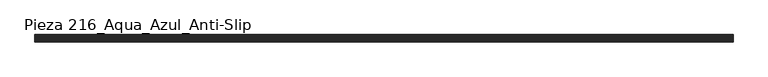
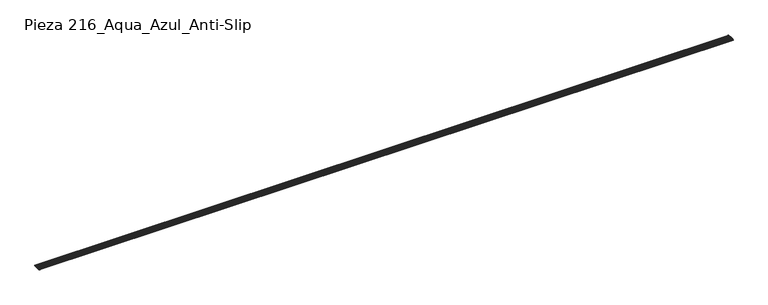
"""IFC4 building model written with IfcOpenShell, lengths in millimetres: slab geometry, ROSA GRES_216 : Pieza 216_Aqua_Azul_Anti-Slip."""

import ifcopenshell
import ifcopenshell.guid

model = None  # the IFC model being written
_history = None  # IfcOwnerHistory: only IFC2X3 demands one
_inside = {}  # id of a spatial element -> (the spatial element, [elements in it])
_under = {}  # id of a project, library or spatial element -> (it, [spatial elements below it])
_declared = {}  # id of a project -> (the project, [libraries it declares])
_typed = {}  # id of a type object -> (the type object, [elements of that type])
_made_of = {}  # id of a material, layer set ... -> (it, [elements and type objects made of it])


def new_model(schema):
    """Start an empty IFC model of exactly this schema.

    Asked for "IFC4X3", IfcOpenShell would pick the latest addendum, in which some entities
    have other attributes; the version numbers below select the first issue.
    IFC2X3 requires an IfcOwnerHistory on every rooted entity: one is made here for all.
    """
    global model, _history
    if schema == "IFC4X3":
        model = ifcopenshell.file(schema_version=(4, 3, 0, 0))
    else:
        model = ifcopenshell.file(schema=schema)
    _inside.clear()
    _under.clear()
    _declared.clear()
    _typed.clear()
    _made_of.clear()
    _history = None
    if model.schema == "IFC2X3":
        org = make("IfcOrganization", Name="unknown")
        user = make(
            "IfcPersonAndOrganization",
            ThePerson=make("IfcPerson", FamilyName="unknown"),
            TheOrganization=org,
        )
        app = make(
            "IfcApplication",
            ApplicationDeveloper=org,
            Version="unknown",
            ApplicationFullName="unknown",
            ApplicationIdentifier="unknown",
        )
        _history = make(
            "IfcOwnerHistory",
            OwningUser=user,
            OwningApplication=app,
            ChangeAction="ADDED",
            CreationDate=0,
        )
    return model


def make(cls, **values):
    """One entity of the class cls with the attributes given. An attribute that is None is left unset."""
    return model.create_entity(
        cls, **{name: value for name, value in values.items() if value is not None}
    )


def rooted(cls, **values):
    """An entity with a GlobalId (a new one), such as an element, a storey or a relation."""
    return make(cls, GlobalId=ifcopenshell.guid.new(), OwnerHistory=_history, **values)


def si_unit(unit_type, name, prefix=None):
    """IfcSIUnit, for example si_unit("LENGTHUNIT", "METRE", prefix="MILLI")."""
    return make("IfcSIUnit", UnitType=unit_type, Prefix=prefix, Name=name)


def assignment(units):
    """IfcUnitAssignment: the units of a project."""
    return None if units is None else make("IfcUnitAssignment", Units=units)


def point(xyz):
    """IfcCartesianPoint."""
    return None if xyz is None else make("IfcCartesianPoint", Coordinates=xyz)


def direction(xyz):
    """IfcDirection."""
    return None if xyz is None else make("IfcDirection", DirectionRatios=xyz)


def frame(location, z_axis=None, x_axis=None):
    """IfcAxis2Placement3D, a coordinate frame: its origin and axes. An axis left out is left unset."""
    return make(
        "IfcAxis2Placement3D",
        Location=point(location),
        Axis=direction(z_axis),
        RefDirection=direction(x_axis),
    )


def frame_2d(location, x_axis=None):
    """IfcAxis2Placement2D, a coordinate frame in the plane: its origin and x axis."""
    return make(
        "IfcAxis2Placement2D", Location=point(location), RefDirection=direction(x_axis)
    )


def origin():
    """The frame at (0, 0, 0) with its axes left unset."""
    return frame((0.0, 0.0, 0.0))


def place(relative_to, where):
    """IfcLocalPlacement: puts the frame where relative to a parent placement (None: the world)."""
    return make(
        "IfcLocalPlacement", PlacementRelTo=relative_to, RelativePlacement=where
    )


def context(
    kind, dimensions, precision=None, world=None, true_north=None, identifier=None
):
    """IfcGeometricRepresentationContext, for example the 3D "Model" context."""
    return make(
        "IfcGeometricRepresentationContext",
        ContextIdentifier=identifier,
        ContextType=kind,
        CoordinateSpaceDimension=dimensions,
        Precision=precision,
        WorldCoordinateSystem=world,
        TrueNorth=true_north,
    )


def project(units=None, contexts=None):
    """IfcProject with its units and contexts."""
    return rooted(
        "IfcProject",
        Name="project",
        RepresentationContexts=contexts,
        UnitsInContext=assignment(units),
    )


def spatial(cls, under=None, at=None, **own):
    """A site, building, storey or space (cls), placed at a placement, below another one or the project."""
    s = rooted(cls, ObjectPlacement=at, **own)
    if under is not None:
        _under.setdefault(under.id(), (under, []))[1].append(s)
    return s


def polyline(points):
    """IfcPolyline through the points."""
    return make("IfcPolyline", Points=[point(p) for p in points])


def circle_curve(where, radius):
    """IfcCircle in the frame where."""
    return make("IfcCircle", Position=where, Radius=radius)


def trimmed(basis, trim1, trim2, sense, master):
    """IfcTrimmedCurve: the piece of a basis curve between two trims."""
    return make(
        "IfcTrimmedCurve",
        BasisCurve=basis,
        Trim1=trim1,
        Trim2=trim2,
        SenseAgreement=sense,
        MasterRepresentation=master,
    )


def segment(curve, same_sense, transition):
    """IfcCompositeCurveSegment."""
    return make(
        "IfcCompositeCurveSegment",
        Transition=transition,
        SameSense=same_sense,
        ParentCurve=curve,
    )


def composite_curve(segments, self_intersect=None):
    """IfcCompositeCurve: segments joined end to end."""
    return make("IfcCompositeCurve", Segments=segments, SelfIntersect=self_intersect)


def outline(outer, holes=None, kind="AREA"):
    """IfcArbitraryClosedProfileDef: a profile drawn as a closed curve; with holes, ...WithVoids."""
    if holes is None:
        return make("IfcArbitraryClosedProfileDef", ProfileType=kind, OuterCurve=outer)
    return make(
        "IfcArbitraryProfileDefWithVoids",
        ProfileType=kind,
        OuterCurve=outer,
        InnerCurves=holes,
    )


def extrude(swept, where, along, depth):
    """IfcExtrudedAreaSolid: the profile swept, set in the frame where, extruded along a direction by depth."""
    return make(
        "IfcExtrudedAreaSolid",
        SweptArea=swept,
        Position=where,
        ExtrudedDirection=direction(along),
        Depth=depth,
    )


def shape(context_of_items, identifier, shape_type, items):
    """IfcShapeRepresentation: the items that make up one representation, for example the "Body"."""
    return make(
        "IfcShapeRepresentation",
        ContextOfItems=context_of_items,
        RepresentationIdentifier=identifier,
        RepresentationType=shape_type,
        Items=items,
    )


def source(mapping_origin, context_of_items, identifier, shape_type, items):
    """IfcRepresentationMap: a shape defined once, which mapped items show again and again."""
    return make(
        "IfcRepresentationMap",
        MappingOrigin=mapping_origin,
        MappedRepresentation=shape(context_of_items, identifier, shape_type, items),
    )


def transform(
    local_origin,
    x_axis=None,
    y_axis=None,
    z_axis=None,
    scale=None,
    scale2=None,
    scale3=None,
    uniform=True,
):
    """IfcCartesianTransformationOperator3D, or its non-uniform kind. x_axis, y_axis, z_axis: its Axis1, 2, 3."""
    if uniform:
        return make(
            "IfcCartesianTransformationOperator3D",
            Axis1=direction(x_axis),
            Axis2=direction(y_axis),
            LocalOrigin=point(local_origin),
            Scale=scale,
            Axis3=direction(z_axis),
        )
    return make(
        "IfcCartesianTransformationOperator3DnonUniform",
        Axis1=direction(x_axis),
        Axis2=direction(y_axis),
        LocalOrigin=point(local_origin),
        Scale=scale,
        Axis3=direction(z_axis),
        Scale2=scale2,
        Scale3=scale3,
    )


def mapped(mapping_source, mapping_target):
    """IfcMappedItem: shows the shape of a source again, moved by a transform."""
    return make(
        "IfcMappedItem", MappingSource=mapping_source, MappingTarget=mapping_target
    )


def made_of(thing, what):
    """Note that an element or type object is made of a material, layer set ...; save() writes the relation."""
    if what is not None:
        _made_of.setdefault(what.id(), (what, []))[1].append(thing)
    return thing


def element(
    cls,
    number,
    at=None,
    inside=None,
    cuts=None,
    type_object=None,
    material=None,
    context=None,
    identifier="Body",
    shape_type=None,
    held_by="IfcProductDefinitionShape",
    body=None,
    shapes=None,
    **own,
):
    """One element of the class cls, such as IfcWall. Its Tag is "e" and its number.

    at: its placement. inside: the storey or other place that contains it. cuts: it is an
    opening in that element (IfcRelVoidsElement). A single representation is given by context,
    identifier, shape_type and body (its items); several are given by shapes. held_by: the class
    of the entity that holds the representations. save() writes the other relations.
    """
    e = rooted(cls, Tag="e%d" % number, ObjectPlacement=at, **own)
    if body is not None:
        shapes = [shape(context, identifier, shape_type, body)]
    if shapes is not None:
        e.Representation = make(held_by, Representations=shapes)
    if inside is not None:
        _inside.setdefault(inside.id(), (inside, []))[1].append(e)
    if cuts is not None:
        rooted(
            "IfcRelVoidsElement", RelatingBuildingElement=cuts, RelatedOpeningElement=e
        )
    if type_object is not None:
        _typed.setdefault(type_object.id(), (type_object, []))[1].append(e)
    return made_of(e, material)


def aggregate(whole, parts):
    """IfcRelAggregates: a whole, such as a stair, and the parts it consists of."""
    return rooted("IfcRelAggregates", RelatingObject=whole, RelatedObjects=parts)


def save(model, path):
    """Write the relations noted so far, then the file.

    IfcRelAggregates (storeys below a building ...), IfcRelContainedInSpatialStructure (elements
    in a storey), IfcRelDefinesByType, IfcRelAssociatesMaterial and IfcRelDeclares: one each for
    every whole, place, type object, material and project.
    """
    for whole, parts in _under.values():
        aggregate(whole, parts)
    for where, things in _inside.values():
        rooted(
            "IfcRelContainedInSpatialStructure",
            RelatedElements=things,
            RelatingStructure=where,
        )
    for kind, things in _typed.values():
        rooted("IfcRelDefinesByType", RelatedObjects=things, RelatingType=kind)
    for what, things in _made_of.values():
        rooted("IfcRelAssociatesMaterial", RelatedObjects=things, RelatingMaterial=what)
    for by, libraries in _declared.values():
        rooted("IfcRelDeclares", RelatingContext=by, RelatedDefinitions=libraries)
    model.write(path)


def pieza_216_aqua_azul_anti_slip_0b623ba6(model_context):
    return source(origin(), model_context, "Body", "SweptSolid", [
        extrude(outline(composite_curve([segment(polyline([(-50.2779274, 190.3313491), (-47.02226, 214.2649666), (-36.1886491, 213.5497765)]), True, "CONTINUOUS"), segment(trimmed(circle_curve(frame_2d((-32.9401407, 216.1124298)), 4.1376321), [point((-36.1886491, 213.5497765))], [point((-30.8950387, 212.5155483))], True, "CARTESIAN"), True, "CONTINUOUS"), segment(trimmed(circle_curve(frame_2d((-28.8499366, 208.9186667)), 4.1376321), [point((-30.8950387, 212.5155483))], [point((-26.349741, 212.2154865))], False, "CARTESIAN"), True, "CONTINUOUS"), segment(trimmed(circle_curve(frame_2d((-23.8495454, 215.5123064)), 4.1376321), [point((-26.349741, 212.2154865))], [point((-20.9679225, 212.5430894))], True, "CARTESIAN"), True, "CONTINUOUS"), segment(polyline([(-20.9679225, 212.5430894), (-12.4148911, 211.9892969)]), True, "CONTINUOUS"), segment(trimmed(circle_curve(frame_2d((-13.9356113, 198.4086002)), 13.6655739), [point((-12.4148911, 211.9892969))], [point((-0.270618, 198.2826277))], False, "CARTESIAN"), True, "CONTINUOUS"), segment(polyline([(-0.270618, 198.2826277), (-0.2589396, 192.8448483), (-5.1617818, 192.8343188), (-5.4229579, 190.3493946), (-14.2436688, 190.3458459)]), True, "CONTINUOUS"), segment(trimmed(circle_curve(frame_2d((-28.4466156, 179.1524611)), 18.0835716), [point((-14.2436688, 190.3458459))], [point((-42.6585641, 190.3344144))], True, "CARTESIAN"), True, "CONTINUOUS"), segment(polyline([(-42.6585641, 190.3344144), (-50.2779274, 190.3313491)]), True, "CONTINUOUS")], self_intersect=False)), frame((0.0, 0.0, 0.0), z_axis=(1.0, 0.0, 0.0), x_axis=(0.0, 1.0, 0.0)), (0.0, 0.0, 1.0), 24719.9734114),
        extrude(outline(composite_curve([segment(polyline([(-263.2751802, 190.245659), (-263.622227, 201.6579314), (-249.1610944, 202.0976939), (-249.2078603, 227.5843816), (-240.0374016, 226.9789859)]), True, "CONTINUOUS"), segment(trimmed(circle_curve(frame_2d((-236.7888932, 229.5416393)), 4.1376321), [point((-240.0374016, 226.9789859))], [point((-234.7437912, 225.9447577))], True, "CARTESIAN"), True, "CONTINUOUS"), segment(trimmed(circle_curve(frame_2d((-232.6986891, 222.3478762)), 4.1376321), [point((-234.7437912, 225.9447577))], [point((-230.1984935, 225.644696))], False, "CARTESIAN"), True, "CONTINUOUS"), segment(trimmed(circle_curve(frame_2d((-227.6982979, 228.9415159)), 4.1376321), [point((-230.1984935, 225.644696))], [point((-225.6531958, 225.3446343))], True, "CARTESIAN"), True, "CONTINUOUS"), segment(trimmed(circle_curve(frame_2d((-223.6080938, 221.7477527)), 4.1376321), [point((-225.6531958, 225.3446343))], [point((-221.1078982, 225.0445726))], False, "CARTESIAN"), True, "CONTINUOUS"), segment(trimmed(circle_curve(frame_2d((-218.6077025, 228.3413925)), 4.1376321), [point((-221.1078982, 225.0445726))], [point((-216.5626005, 224.7445109))], True, "CARTESIAN"), True, "CONTINUOUS"), segment(trimmed(circle_curve(frame_2d((-214.5174985, 221.1476293)), 4.1376321), [point((-216.5626005, 224.7445109))], [point((-212.0173028, 224.4444492))], False, "CARTESIAN"), True, "CONTINUOUS"), segment(trimmed(circle_curve(frame_2d((-209.5171072, 227.741269)), 4.1376321), [point((-212.0173028, 224.4444492))], [point((-207.4720052, 224.1443874))], True, "CARTESIAN"), True, "CONTINUOUS"), segment(trimmed(circle_curve(frame_2d((-205.4269031, 220.5475058)), 4.1376321), [point((-207.4720052, 224.1443874))], [point((-202.9267075, 223.8443257))], False, "CARTESIAN"), True, "CONTINUOUS"), segment(trimmed(circle_curve(frame_2d((-200.4265119, 227.1411456)), 4.1376321), [point((-202.9267075, 223.8443257))], [point((-198.3814098, 223.544264))], True, "CARTESIAN"), True, "CONTINUOUS"), segment(trimmed(circle_curve(frame_2d((-196.3363078, 219.9473824)), 4.1376321), [point((-198.3814098, 223.544264))], [point((-193.8361122, 223.2442023))], False, "CARTESIAN"), True, "CONTINUOUS"), segment(trimmed(circle_curve(frame_2d((-191.3359165, 226.5410222)), 4.1376321), [point((-193.8361122, 223.2442023))], [point((-189.2908145, 222.9441406))], True, "CARTESIAN"), True, "CONTINUOUS"), segment(trimmed(circle_curve(frame_2d((-187.2457125, 219.347259)), 4.1376321), [point((-189.2908145, 222.9441406))], [point((-184.7455168, 222.6440788))], False, "CARTESIAN"), True, "CONTINUOUS"), segment(trimmed(circle_curve(frame_2d((-182.2453212, 225.9408987)), 4.1376321), [point((-184.7455168, 222.6440788))], [point((-180.2002192, 222.3440171))], True, "CARTESIAN"), True, "CONTINUOUS"), segment(trimmed(circle_curve(frame_2d((-178.1551171, 218.7471355)), 4.1376321), [point((-180.2002192, 222.3440171))], [point((-175.6549215, 222.0439554))], False, "CARTESIAN"), True, "CONTINUOUS"), segment(trimmed(circle_curve(frame_2d((-173.1547259, 225.3407753)), 4.1376321), [point((-175.6549215, 222.0439554))], [point((-171.1096238, 221.7438937))], True, "CARTESIAN"), True, "CONTINUOUS"), segment(trimmed(circle_curve(frame_2d((-169.0645218, 218.1470121)), 4.1376321), [point((-171.1096238, 221.7438937))], [point((-166.5643262, 221.443832))], False, "CARTESIAN"), True, "CONTINUOUS"), segment(trimmed(circle_curve(frame_2d((-164.0641305, 224.7406518)), 4.1376321), [point((-166.5643262, 221.443832))], [point((-162.0190285, 221.1437703))], True, "CARTESIAN"), True, "CONTINUOUS"), segment(trimmed(circle_curve(frame_2d((-159.9739265, 217.5468887)), 4.1376321), [point((-162.0190285, 221.1437703))], [point((-157.4737308, 220.8437085))], False, "CARTESIAN"), True, "CONTINUOUS"), segment(trimmed(circle_curve(frame_2d((-154.9735352, 224.1405284)), 4.1376321), [point((-157.4737308, 220.8437085))], [point((-152.9284332, 220.5436468))], True, "CARTESIAN"), True, "CONTINUOUS"), segment(trimmed(circle_curve(frame_2d((-150.8833311, 216.9467652)), 4.1376321), [point((-152.9284332, 220.5436468))], [point((-148.3831355, 220.2435851))], False, "CARTESIAN"), True, "CONTINUOUS"), segment(trimmed(circle_curve(frame_2d((-145.8829399, 223.540405)), 4.1376321), [point((-148.3831355, 220.2435851))], [point((-143.8378378, 219.9435234))], True, "CARTESIAN"), True, "CONTINUOUS"), segment(trimmed(circle_curve(frame_2d((-141.7927358, 216.3466418)), 4.1376321), [point((-143.8378378, 219.9435234))], [point((-139.2925402, 219.6434617))], False, "CARTESIAN"), True, "CONTINUOUS"), segment(trimmed(circle_curve(frame_2d((-136.7923445, 222.9402815)), 4.1376321), [point((-139.2925402, 219.6434617))], [point((-134.7472425, 219.3433999))], True, "CARTESIAN"), True, "CONTINUOUS"), segment(trimmed(circle_curve(frame_2d((-132.7021405, 215.7465184)), 4.1376321), [point((-134.7472425, 219.3433999))], [point((-130.2019448, 219.0433382))], False, "CARTESIAN"), True, "CONTINUOUS"), segment(trimmed(circle_curve(frame_2d((-127.7017492, 222.3401581)), 4.1376321), [point((-130.2019448, 219.0433382))], [point((-125.6566472, 218.7432765))], True, "CARTESIAN"), True, "CONTINUOUS"), segment(trimmed(circle_curve(frame_2d((-123.6115451, 215.1463949)), 4.1376321), [point((-125.6566472, 218.7432765))], [point((-121.1113495, 218.4432148))], False, "CARTESIAN"), True, "CONTINUOUS"), segment(trimmed(circle_curve(frame_2d((-118.6111539, 221.7400347)), 4.1376321), [point((-121.1113495, 218.4432148))], [point((-116.5660518, 218.1431531))], True, "CARTESIAN"), True, "CONTINUOUS"), segment(trimmed(circle_curve(frame_2d((-114.5209498, 214.5462715)), 4.1376321), [point((-116.5660518, 218.1431531))], [point((-112.0207542, 217.8430914))], False, "CARTESIAN"), True, "CONTINUOUS"), segment(trimmed(circle_curve(frame_2d((-109.5205585, 221.1399112)), 4.1376321), [point((-112.0207542, 217.8430914))], [point((-107.4754565, 217.5430296))], True, "CARTESIAN"), True, "CONTINUOUS"), segment(trimmed(circle_curve(frame_2d((-105.4303545, 213.9461481)), 4.1376321), [point((-107.4754565, 217.5430296))], [point((-102.9301588, 217.2429679))], False, "CARTESIAN"), True, "CONTINUOUS"), segment(trimmed(circle_curve(frame_2d((-100.4299632, 220.5397878)), 4.1376321), [point((-102.9301588, 217.2429679))], [point((-97.5473566, 217.5715259))], True, "CARTESIAN"), True, "CONTINUOUS"), segment(polyline([(-97.5473566, 217.5715259), (-86.7854822, 216.8536554), (-84.083877, 210.4125036)]), True, "CONTINUOUS"), segment(trimmed(circle_curve(frame_2d((-70.8098694, 215.980006)), 14.394317), [point((-84.083877, 210.4125036))], [point((-76.5779698, 202.7919289))], True, "CARTESIAN"), True, "CONTINUOUS"), segment(trimmed(circle_curve(frame_2d((-74.7526105, 206.9653964)), 4.5551913), [point((-76.5779698, 202.7919289))], [point((-75.0526722, 202.4200987))], True, "CARTESIAN"), True, "CONTINUOUS"), segment(polyline([(-75.0526722, 202.4200987), (-59.5105698, 201.3940735)]), True, "CONTINUOUS"), segment(trimmed(circle_curve(frame_2d((-59.2105081, 205.9393712)), 4.5551913), [point((-59.5105698, 201.3940735))], [point((-57.0972438, 201.904042))], True, "CARTESIAN"), True, "CONTINUOUS"), segment(trimmed(circle_curve(frame_2d((-63.7751184, 214.6556047)), 14.394317), [point((-57.0972438, 201.904042))], [point((-51.3482048, 207.3914339))], True, "CARTESIAN"), True, "CONTINUOUS"), segment(polyline([(-51.3482048, 207.3914339), (-47.02226, 214.2649666), (-50.2802779, 190.3140695), (-93.2293566, 190.3140695), (-94.4638044, 193.8901119)]), True, "CONTINUOUS"), segment(trimmed(circle_curve(frame_2d((-99.6308378, 192.1064549)), 5.4662296), [point((-94.4638044, 193.8901119))], [point((-96.2307788, 196.386556))], True, "CARTESIAN"), True, "CONTINUOUS"), segment(trimmed(circle_curve(frame_2d((-112.2317578, 176.2440208)), 25.7245612), [point((-96.2307788, 196.386556))], [point((-129.2498705, 195.5348707))], True, "CARTESIAN"), True, "CONTINUOUS"), segment(trimmed(circle_curve(frame_2d((-125.6336801, 191.4357448)), 5.4662296), [point((-129.2498705, 195.5348707))], [point((-130.9555618, 192.6836396))], True, "CARTESIAN"), True, "CONTINUOUS"), segment(polyline([(-130.9555618, 192.6836396), (-131.5147991, 190.298667), (-143.719644, 190.2937569)]), True, "CONTINUOUS"), segment(trimmed(circle_curve(frame_2d((-162.221775, 186.3703221)), 18.9135452), [point((-143.719644, 190.2937569))], [point((-180.7270569, 190.2788686))], True, "CARTESIAN"), True, "CONTINUOUS"), segment(polyline([(-180.7270569, 190.2788686), (-193.0966393, 190.2738923)]), True, "CONTINUOUS"), segment(trimmed(circle_curve(frame_2d((-215.0085062, 186.5344061)), 22.2286676), [point((-193.0966393, 190.2738923))], [point((-236.9233748, 190.2562605))], True, "CARTESIAN"), True, "CONTINUOUS"), segment(polyline([(-236.9233748, 190.2562605), (-263.2751802, 190.245659)]), True, "CONTINUOUS")], self_intersect=False)), frame((0.0, 0.0, 0.0), z_axis=(1.0, 0.0, 0.0), x_axis=(0.0, 1.0, 0.0)), (0.0, 0.0, 1.0), 24719.9734114),
    ])


if __name__ == "__main__":
    model = new_model("IFC4")
    model_context = context("Model", 3, world=origin())
    ifc_project = project(units=[si_unit("LENGTHUNIT", "METRE", prefix="MILLI")], contexts=[model_context])
    site = spatial("IfcSite", under=ifc_project)
    building = spatial("IfcBuilding", under=site)
    placement = place(None, origin())
    pieza_216_aqua_azul_anti_slip_shape = pieza_216_aqua_azul_anti_slip_0b623ba6(model_context)
    element("IfcSlab", 1, ObjectType="ROSA GRES_216 : Pieza 216_Aqua_Azul_Anti-Slip", at=placement, inside=building, context=model_context, shape_type="MappedRepresentation", body=[
        mapped(pieza_216_aqua_azul_anti_slip_shape, transform((0.0, 0.0, 0.0), x_axis=(1.0, 0.0, 0.0), y_axis=(0.0, 1.0, 0.0), z_axis=(0.0, 0.0, 1.0))),
    ])
    save(model, "model.ifc")
